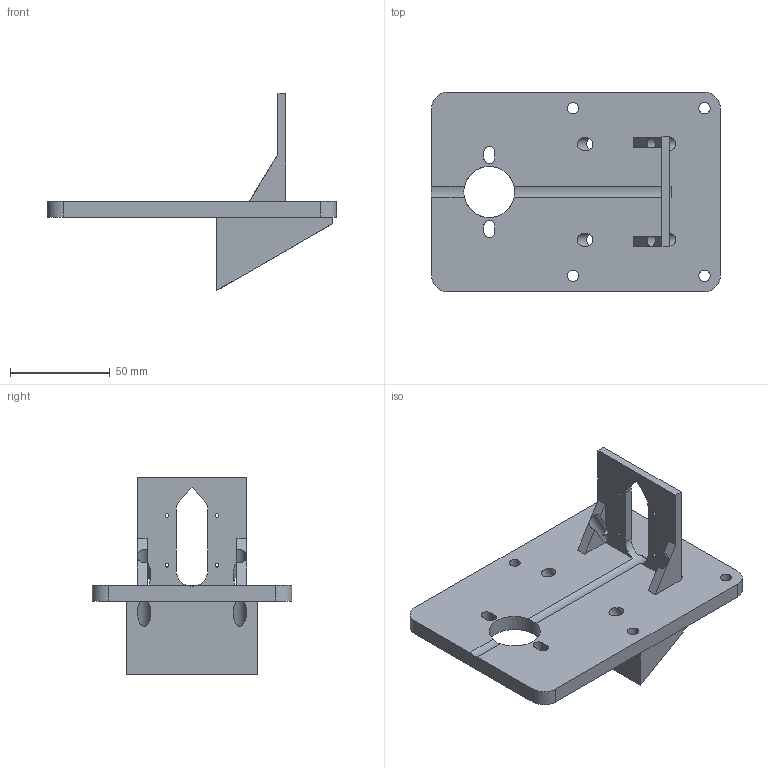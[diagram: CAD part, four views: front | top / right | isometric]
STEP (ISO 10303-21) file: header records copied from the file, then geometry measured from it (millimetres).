
FILE_DESCRIPTION(('FreeCAD Model'),'2;1');
FILE_NAME('Open CASCADE Shape Model','2026-11-20T13:18:16',('FreeCAD'),( 'FreeCAD'),'Open CASCADE STEP processor 7.8','FreeCAD','Unknown');
FILE_SCHEMA(('AUTOMOTIVE_DESIGN { 1 0 10303 214 1 1 1 1 }'));
Length unit declared in the file: millimetre
Products named in the file (1): Open CASCADE STEP translator 7.8 1
Bounding box: 145 x 100 x 98.74 mm (x, y, z)
Volume: 192388.7 mm3; surface area: 46766.3 mm2
Topology: 1 solids, 1 shells, 64 faces, 207 edges, 139 vertices
Faces by surface type: plane 35, cylinder 29
Full cylindrical faces by diameter (mm): 1.8 x4, 3.6 x4, 5.7 x4, 6.8 x4, 25.6 x1
Entity records: 2442 total; most frequent: CARTESIAN_POINT 455, DIRECTION 414, ORIENTED_EDGE 414, EDGE_CURVE 207, AXIS2_PLACEMENT_3D 146, VERTEX_POINT 139, LINE 122, VECTOR 122
